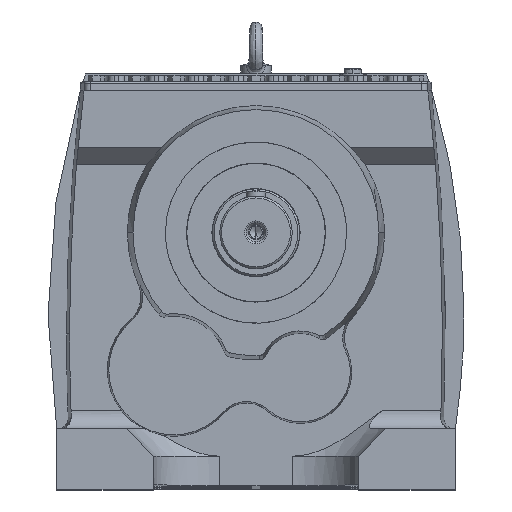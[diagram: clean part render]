
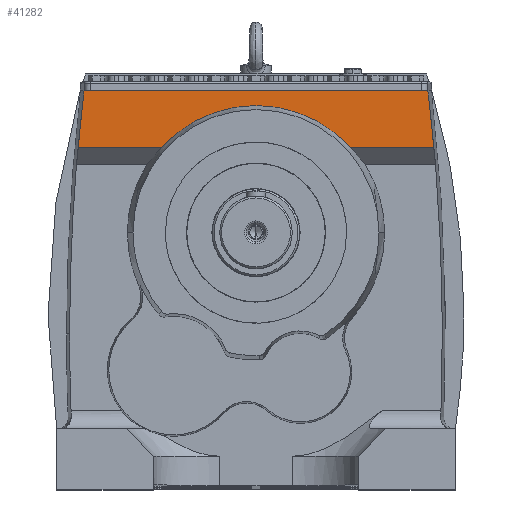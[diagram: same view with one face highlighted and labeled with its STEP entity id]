
A CAD part, top view. The second image highlights one B-rep face of the part: STEP entity #41282.
In plain terms, the highlighted planar face has unit normal (0, 0, 1).
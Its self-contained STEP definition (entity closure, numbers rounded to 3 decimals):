
#4035 = EDGE_CURVE ( 'NONE', #46843, #135943, #121865, .T. ) ;
#4130 = EDGE_CURVE ( 'NONE', #135956, #46851, #122026, .T. ) ;
#4555 = EDGE_CURVE ( 'NONE', #111082, #111144, #122838, .T. ) ;
#4585 = EDGE_CURVE ( 'NONE', #46851, #111082, #122723, .T. ) ;
#4971 = EDGE_CURVE ( 'NONE', #46843, #111144, #75647, .T. ) ;
#5092 = EDGE_CURVE ( 'NONE', #135943, #135956, #75758, .T. ) ;
#6901 = AXIS2_PLACEMENT_3D ( 'NONE', #57024, #57058, #57093 ) ;
#9606 = AXIS2_PLACEMENT_3D ( 'NONE', #28903, #28918, #28904 ) ;
#9624 = AXIS2_PLACEMENT_3D ( 'NONE', #27425, #27322, #27327 ) ;
#9696 = AXIS2_PLACEMENT_3D ( 'NONE', #27963, #28060, #27938 ) ;
#27322 = DIRECTION ( 'NONE',  ( 0., 0., -1. ) ) ;
#27327 = DIRECTION ( 'NONE',  ( -1., 0., 0. ) ) ;
#27425 = CARTESIAN_POINT ( 'NONE',  ( 3186.324, -167.302, 258.5 ) ) ;
#27938 = DIRECTION ( 'NONE',  ( -1., 0., 0. ) ) ;
#27963 = CARTESIAN_POINT ( 'NONE',  ( 0., 0., 258.5 ) ) ;
#28060 = DIRECTION ( 'NONE',  ( 0., 0., -1. ) ) ;
#28848 = CARTESIAN_POINT ( 'NONE',  ( -380.272, 235., 258.5 ) ) ;
#28850 = DIRECTION ( 'NONE',  ( -1., 0., 0. ) ) ;
#28903 = CARTESIAN_POINT ( 'NONE',  ( -3186.324, -167.302, 258.5 ) ) ;
#28904 = DIRECTION ( 'NONE',  ( -1., 0., 0. ) ) ;
#28918 = DIRECTION ( 'NONE',  ( 0., 0., 1. ) ) ;
#30283 = CARTESIAN_POINT ( 'NONE',  ( 294.246, 140.733, 258.5 ) ) ;
#30377 = CARTESIAN_POINT ( 'NONE',  ( -294.246, 140.733, 258.5 ) ) ;
#41282 = ADVANCED_FACE ( 'NONE', ( #57961 ), #57069, .T. ) ;
#46843 = VERTEX_POINT ( 'NONE', #30377 ) ;
#46851 = VERTEX_POINT ( 'NONE', #30283 ) ;
#57024 = CARTESIAN_POINT ( 'NONE',  ( -3186.324, -167.302, 258.5 ) ) ;
#57058 = DIRECTION ( 'NONE',  ( 0., 0., 1. ) ) ;
#57069 = PLANE ( 'NONE',  #6901 ) ;
#57093 = DIRECTION ( 'NONE',  ( 1., 0., 0. ) ) ;
#57961 = FACE_OUTER_BOUND ( 'NONE', #135614, .T. ) ;
#75647 = CIRCLE ( 'NONE', #9624, 3494.174 ) ;
#75758 = CIRCLE ( 'NONE', #9696, 210.55 ) ;
#94735 = CARTESIAN_POINT ( 'NONE',  ( 284.613, 235., 258.5 ) ) ;
#94775 = CARTESIAN_POINT ( 'NONE',  ( -284.613, 235., 258.5 ) ) ;
#97937 = CARTESIAN_POINT ( 'NONE',  ( 156.607, 140.733, 258.5 ) ) ;
#97966 = CARTESIAN_POINT ( 'NONE',  ( -156.607, 140.733, 258.5 ) ) ;
#111082 = VERTEX_POINT ( 'NONE', #94735 ) ;
#111144 = VERTEX_POINT ( 'NONE', #94775 ) ;
#112252 = DIRECTION ( 'NONE',  ( 1., 0., 0. ) ) ;
#112255 = CARTESIAN_POINT ( 'NONE',  ( -3186.324, 140.733, 258.5 ) ) ;
#112382 = DIRECTION ( 'NONE',  ( 1., 0., 0. ) ) ;
#112396 = CARTESIAN_POINT ( 'NONE',  ( -3186.324, 140.733, 258.5 ) ) ;
#117284 = ORIENTED_EDGE ( 'NONE', *, *, #4585, .T. ) ;
#117326 = ORIENTED_EDGE ( 'NONE', *, *, #4035, .T. ) ;
#117381 = ORIENTED_EDGE ( 'NONE', *, *, #5092, .T. ) ;
#117464 = ORIENTED_EDGE ( 'NONE', *, *, #4555, .T. ) ;
#117499 = ORIENTED_EDGE ( 'NONE', *, *, #4971, .F. ) ;
#117588 = ORIENTED_EDGE ( 'NONE', *, *, #4130, .T. ) ;
#121865 = LINE ( 'NONE', #112255, #121894 ) ;
#121894 = VECTOR ( 'NONE', #112252, 1000. ) ;
#122026 = LINE ( 'NONE', #112396, #122145 ) ;
#122145 = VECTOR ( 'NONE', #112382, 1000. ) ;
#122723 = CIRCLE ( 'NONE', #9606, 3494.174 ) ;
#122764 = VECTOR ( 'NONE', #28850, 1000. ) ;
#122838 = LINE ( 'NONE', #28848, #122764 ) ;
#135614 = EDGE_LOOP ( 'NONE', ( #117588, #117284, #117464, #117499, #117326, #117381 ) ) ;
#135943 = VERTEX_POINT ( 'NONE', #97966 ) ;
#135956 = VERTEX_POINT ( 'NONE', #97937 ) ;
